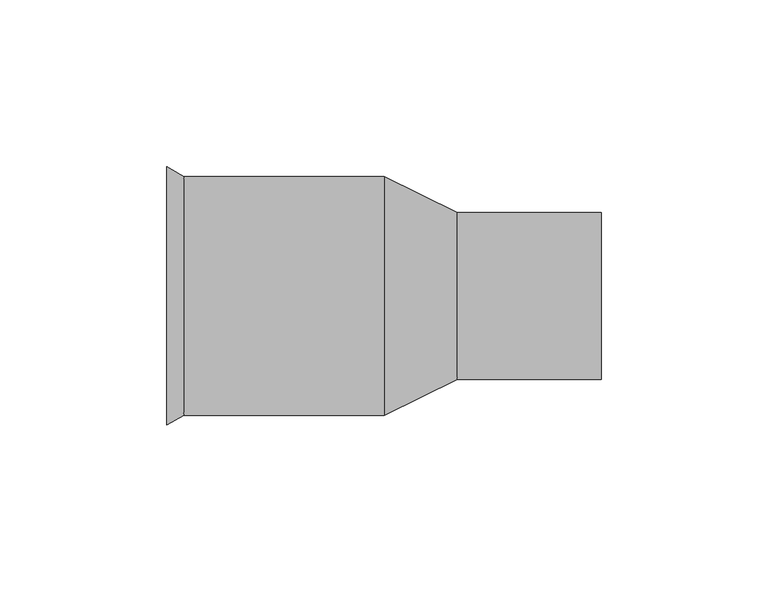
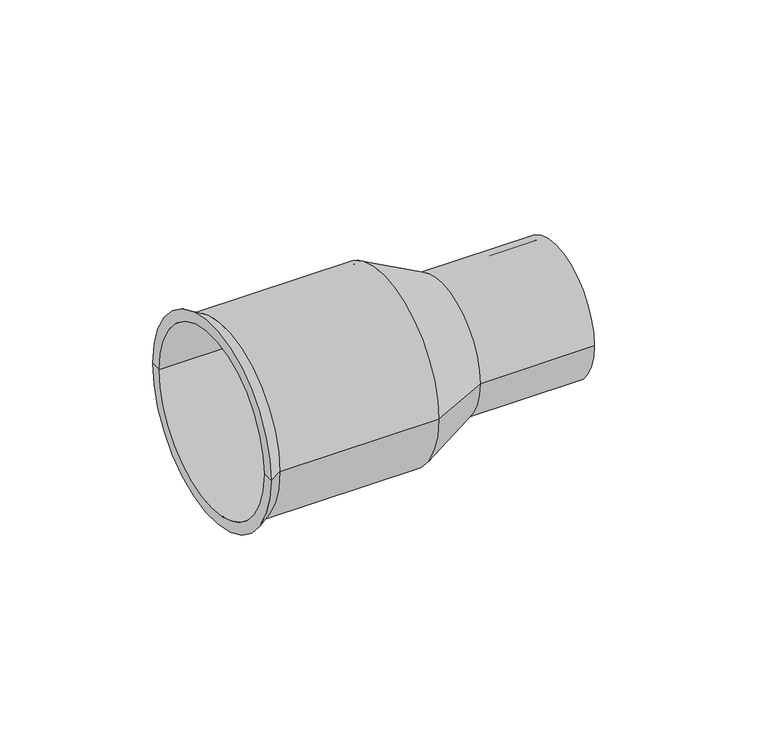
"""IFC4 building model written with IfcOpenShell, lengths in millimetres: pipe fitting geometry, NLRS_52_UN_PIF_PVC krimpmof MS_PipeLife : Grijs, var. DN/OD."""

from ifc_helpers import new_model, si_unit, frame, origin, place, context, project, spatial, polyline, circle_curve, source, transform, mapped, element, save
from ifc_brep_helpers import plane_surface, cylinder_surface, revolved_surface, advanced_brep


def pipe_fitting_9321a9eb(model_context):
    return source(origin(), model_context, "Body", "AdvancedBrep", [
        advanced_brep(
        [(11.0, -25.05, 0.0), (11.0, 25.05, 0.0), (54.0, 25.05, 0.0), (54.0, -25.05, 0.0), (54.0, 23.05, 0.0), (54.0, -23.05, 0.0), (11.0, 23.05, 0.0), (11.0, -23.05, 0.0), (-11.0, 34.4, 0.0), (-11.0, -34.4, 0.0), (-76.0, 34.4, 0.0), (-76.0, -34.4, 0.0), (-76.0, 38.6867513, 0.0), (-76.0, -38.6867513, 0.0), (-71.0, 35.8, 0.0), (-71.0, -35.8, 0.0), (-11.0, 35.8, 0.0), (-11.0, -35.8, 0.0)],
        [
            (0, 1, circle_curve(frame((11.0, 0.0, 0.0), z_axis=(1.0, 0.0, 0.0), x_axis=(0.0, 1.0, 0.0)), 25.05)),
            (1, 2),
            (2, 3, circle_curve(frame((54.0, 0.0, 0.0), z_axis=(-1.0, 0.0, 0.0), x_axis=(0.0, 1.0, 0.0)), 25.05)),
            (3, 0),
            (1, 0, circle_curve(frame((11.0, 0.0, 0.0), z_axis=(1.0, 0.0, 0.0), x_axis=(0.0, 1.0, 0.0)), 25.05)),
            (3, 2, circle_curve(frame((54.0, 0.0, 0.0), z_axis=(-1.0, 0.0, 0.0), x_axis=(0.0, 1.0, 0.0)), 25.05)),
            (2, 4),
            (4, 5, circle_curve(frame((54.0, 0.0, 0.0), z_axis=(-1.0, 0.0, 0.0), x_axis=(0.0, 1.0, 0.0)), 23.05)),
            (5, 3),
            (5, 4, circle_curve(frame((54.0, 0.0, 0.0), z_axis=(-1.0, 0.0, 0.0), x_axis=(0.0, 1.0, 0.0)), 23.05)),
            (4, 6),
            (6, 7, circle_curve(frame((11.0, 0.0, 0.0), z_axis=(-1.0, 0.0, 0.0), x_axis=(0.0, 1.0, 0.0)), 23.05)),
            (7, 5),
            (7, 6, circle_curve(frame((11.0, 0.0, 0.0), z_axis=(-1.0, 0.0, 0.0), x_axis=(0.0, 1.0, 0.0)), 23.05)),
            (6, 8),
            (8, 9, circle_curve(frame((-11.0, 0.0, 0.0), z_axis=(-1.0, 0.0, 0.0), x_axis=(0.0, 1.0, 0.0)), 34.4)),
            (9, 7),
            (9, 8, circle_curve(frame((-11.0, 0.0, 0.0), z_axis=(-1.0, 0.0, 0.0), x_axis=(0.0, 1.0, 0.0)), 34.4)),
            (8, 10),
            (10, 11, circle_curve(frame((-76.0, 0.0, 0.0), z_axis=(-1.0, 0.0, 0.0), x_axis=(0.0, 1.0, 0.0)), 34.4)),
            (11, 9),
            (11, 10, circle_curve(frame((-76.0, 0.0, 0.0), z_axis=(-1.0, 0.0, 0.0), x_axis=(0.0, 1.0, 0.0)), 34.4)),
            (10, 12),
            (12, 13, circle_curve(frame((-76.0, 0.0, 0.0), z_axis=(-1.0, 0.0, 0.0), x_axis=(0.0, 1.0, 0.0)), 38.6867513)),
            (13, 11),
            (13, 12, circle_curve(frame((-76.0, 0.0, 0.0), z_axis=(-1.0, 0.0, 0.0), x_axis=(0.0, 1.0, 0.0)), 38.6867513)),
            (12, 14),
            (14, 15, circle_curve(frame((-71.0, 0.0, 0.0), z_axis=(-1.0, 0.0, 0.0), x_axis=(0.0, 1.0, 0.0)), 35.8)),
            (15, 13),
            (15, 14, circle_curve(frame((-71.0, 0.0, 0.0), z_axis=(-1.0, 0.0, 0.0), x_axis=(0.0, 1.0, 0.0)), 35.8)),
            (14, 16),
            (16, 17, circle_curve(frame((-11.0, 0.0, 0.0), z_axis=(-1.0, 0.0, 0.0), x_axis=(0.0, 1.0, 0.0)), 35.8)),
            (17, 15),
            (17, 16, circle_curve(frame((-11.0, 0.0, 0.0), z_axis=(-1.0, 0.0, 0.0), x_axis=(0.0, 1.0, 0.0)), 35.8)),
            (16, 1),
            (0, 17),
        ],
        [
            cylinder_surface(frame((54.0, 0.0, 0.0), z_axis=(-1.0, 0.0, 0.0), x_axis=(0.0, 1.0, 0.0)), 25.05),
            plane_surface(frame((54.0, 0.0, 0.0), z_axis=(1.0, 0.0, 0.0), x_axis=(0.0, 1.0, 0.0))),
            revolved_surface(polyline([(11.0, 23.05, 0.0), (54.0, 23.05, 0.0)]), (54.0, 0.0, 0.0), (-1.0, 0.0, 0.0)),
            revolved_surface(polyline([(-11.0, 34.4, 0.0), (11.0, 23.05, 0.0)]), (54.0, 0.0, 0.0), (-1.0, 0.0, 0.0)),
            revolved_surface(polyline([(-76.0, 34.4, 0.0), (-11.0, 34.4, 0.0)]), (54.0, 0.0, 0.0), (-1.0, 0.0, 0.0)),
            plane_surface(frame((-76.0, 0.0, 0.0), z_axis=(-1.0, 0.0, 0.0), x_axis=(0.0, 1.0, 0.0))),
            revolved_surface(polyline([(-71.0, 35.8, 0.0), (-76.0, 38.6867513, 0.0)]), (54.0, 0.0, 0.0), (-1.0, 0.0, 0.0)),
            cylinder_surface(frame((54.0, 0.0, 0.0), z_axis=(-1.0, 0.0, 0.0), x_axis=(0.0, 1.0, 0.0)), 35.8),
            revolved_surface(polyline([(11.0, 25.05, 0.0), (-11.0, 35.8, 0.0)]), (54.0, 0.0, 0.0), (-1.0, 0.0, 0.0)),
        ],
        [
            (0, [[1, 2, 3, 4]]),
            (0, [[5, -4, 6, -2]]),
            (1, [[-3, 7, 8, 9]]),
            (1, [[-6, -9, 10, -7]]),
            (2, [[-8, 11, 12, 13]]),
            (2, [[-10, -13, 14, -11]]),
            (3, [[-12, 15, 16, 17]]),
            (3, [[-14, -17, 18, -15]]),
            (4, [[-16, 19, 20, 21]]),
            (4, [[-18, -21, 22, -19]]),
            (5, [[-20, 23, 24, 25]]),
            (5, [[-22, -25, 26, -23]]),
            (6, [[-24, 27, 28, 29]]),
            (6, [[-26, -29, 30, -27]]),
            (7, [[-28, 31, 32, 33]]),
            (7, [[-30, -33, 34, -31]]),
            (8, [[-32, 35, -1, 36]]),
            (8, [[-34, -36, -5, -35]]),
        ],
    ),
    ])


if __name__ == "__main__":
    model = new_model("IFC4")
    model_context = context("Model", 3, world=origin())
    ifc_project = project(units=[si_unit("LENGTHUNIT", "METRE", prefix="MILLI")], contexts=[model_context])
    site = spatial("IfcSite", under=ifc_project)
    building = spatial("IfcBuilding", under=site)
    placement = place(None, origin())
    pipe_fitting_shape = pipe_fitting_9321a9eb(model_context)
    element("IfcPipeFitting", 1, ObjectType="NLRS_52_UN_PIF_PVC krimpmof MS_PipeLife : Grijs, var. DN/OD", at=placement, inside=building, context=model_context, shape_type="MappedRepresentation", body=[
        mapped(pipe_fitting_shape, transform((0.0, 0.0, 0.0), x_axis=(1.0, 0.0, 0.0), y_axis=(0.0, 1.0, 0.0), z_axis=(0.0, 0.0, 1.0))),
    ])
    save(model, "model.ifc")
